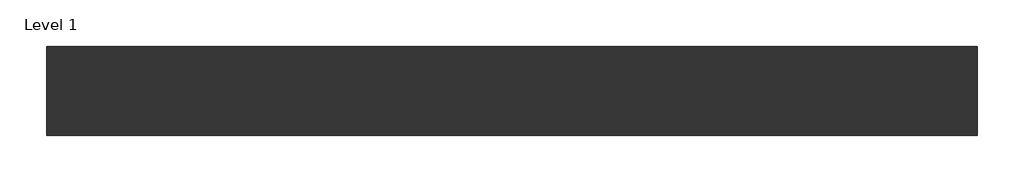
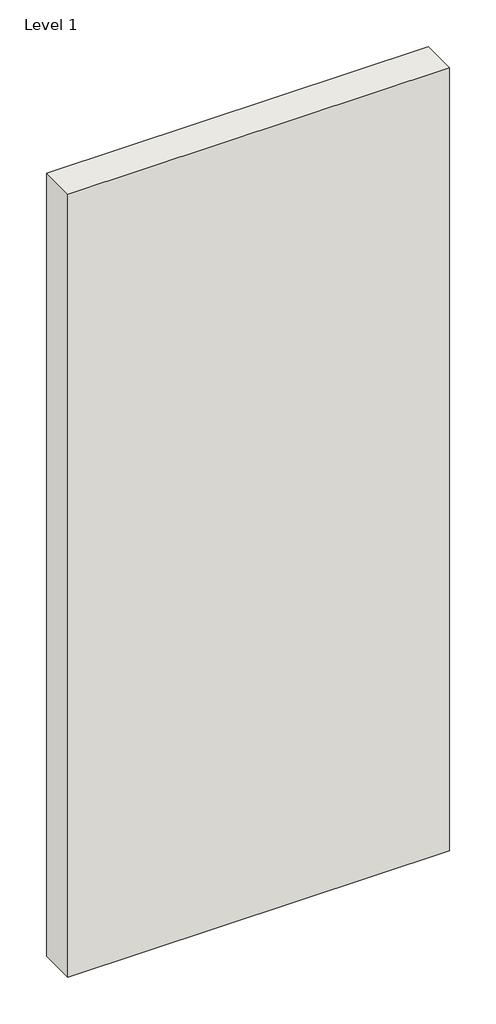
# One storey: 1 wall.
"""IFC4 building model written with IfcOpenShell, lengths in millimetres."""

import ifcopenshell
import ifcopenshell.guid

model = None  # the IFC model being written
_history = None  # IfcOwnerHistory: only IFC2X3 demands one
_inside = {}  # id of a spatial element -> (the spatial element, [elements in it])
_under = {}  # id of a project, library or spatial element -> (it, [spatial elements below it])
_declared = {}  # id of a project -> (the project, [libraries it declares])
_typed = {}  # id of a type object -> (the type object, [elements of that type])
_made_of = {}  # id of a material, layer set ... -> (it, [elements and type objects made of it])


def new_model(schema):
    """Start an empty IFC model of exactly this schema.

    Asked for "IFC4X3", IfcOpenShell would pick the latest addendum, in which some entities
    have other attributes; the version numbers below select the first issue.
    IFC2X3 requires an IfcOwnerHistory on every rooted entity: one is made here for all.
    """
    global model, _history
    if schema == "IFC4X3":
        model = ifcopenshell.file(schema_version=(4, 3, 0, 0))
    else:
        model = ifcopenshell.file(schema=schema)
    _inside.clear()
    _under.clear()
    _declared.clear()
    _typed.clear()
    _made_of.clear()
    _history = None
    if model.schema == "IFC2X3":
        org = make("IfcOrganization", Name="unknown")
        user = make(
            "IfcPersonAndOrganization",
            ThePerson=make("IfcPerson", FamilyName="unknown"),
            TheOrganization=org,
        )
        app = make(
            "IfcApplication",
            ApplicationDeveloper=org,
            Version="unknown",
            ApplicationFullName="unknown",
            ApplicationIdentifier="unknown",
        )
        _history = make(
            "IfcOwnerHistory",
            OwningUser=user,
            OwningApplication=app,
            ChangeAction="ADDED",
            CreationDate=0,
        )
    return model


def make(cls, **values):
    """One entity of the class cls with the attributes given. An attribute that is None is left unset."""
    return model.create_entity(
        cls, **{name: value for name, value in values.items() if value is not None}
    )


def rooted(cls, **values):
    """An entity with a GlobalId (a new one), such as an element, a storey or a relation."""
    return make(cls, GlobalId=ifcopenshell.guid.new(), OwnerHistory=_history, **values)


def si_unit(unit_type, name, prefix=None):
    """IfcSIUnit, for example si_unit("LENGTHUNIT", "METRE", prefix="MILLI")."""
    return make("IfcSIUnit", UnitType=unit_type, Prefix=prefix, Name=name)


def assignment(units):
    """IfcUnitAssignment: the units of a project."""
    return None if units is None else make("IfcUnitAssignment", Units=units)


def point(xyz):
    """IfcCartesianPoint."""
    return None if xyz is None else make("IfcCartesianPoint", Coordinates=xyz)


def direction(xyz):
    """IfcDirection."""
    return None if xyz is None else make("IfcDirection", DirectionRatios=xyz)


def frame(location, z_axis=None, x_axis=None):
    """IfcAxis2Placement3D, a coordinate frame: its origin and axes. An axis left out is left unset."""
    return make(
        "IfcAxis2Placement3D",
        Location=point(location),
        Axis=direction(z_axis),
        RefDirection=direction(x_axis),
    )


def origin():
    """The frame at (0, 0, 0) with its axes left unset."""
    return frame((0.0, 0.0, 0.0))


def origin_with_axes():
    """The frame at (0, 0, 0) with the z axis (0, 0, 1) and the x axis (1, 0, 0) written out."""
    return frame((0.0, 0.0, 0.0), z_axis=(0.0, 0.0, 1.0), x_axis=(1.0, 0.0, 0.0))


def place(relative_to, where):
    """IfcLocalPlacement: puts the frame where relative to a parent placement (None: the world)."""
    return make(
        "IfcLocalPlacement", PlacementRelTo=relative_to, RelativePlacement=where
    )


def context(
    kind, dimensions, precision=None, world=None, true_north=None, identifier=None
):
    """IfcGeometricRepresentationContext, for example the 3D "Model" context."""
    return make(
        "IfcGeometricRepresentationContext",
        ContextIdentifier=identifier,
        ContextType=kind,
        CoordinateSpaceDimension=dimensions,
        Precision=precision,
        WorldCoordinateSystem=world,
        TrueNorth=true_north,
    )


def project(units=None, contexts=None):
    """IfcProject with its units and contexts."""
    return rooted(
        "IfcProject",
        Name="project",
        RepresentationContexts=contexts,
        UnitsInContext=assignment(units),
    )


def spatial(cls, under=None, at=None, **own):
    """A site, building, storey or space (cls), placed at a placement, below another one or the project."""
    s = rooted(cls, ObjectPlacement=at, **own)
    if under is not None:
        _under.setdefault(under.id(), (under, []))[1].append(s)
    return s


def polyline(points):
    """IfcPolyline through the points."""
    return make("IfcPolyline", Points=[point(p) for p in points])


def outline(outer, holes=None, kind="AREA"):
    """IfcArbitraryClosedProfileDef: a profile drawn as a closed curve; with holes, ...WithVoids."""
    if holes is None:
        return make("IfcArbitraryClosedProfileDef", ProfileType=kind, OuterCurve=outer)
    return make(
        "IfcArbitraryProfileDefWithVoids",
        ProfileType=kind,
        OuterCurve=outer,
        InnerCurves=holes,
    )


def extrude(swept, where, along, depth):
    """IfcExtrudedAreaSolid: the profile swept, set in the frame where, extruded along a direction by depth."""
    return make(
        "IfcExtrudedAreaSolid",
        SweptArea=swept,
        Position=where,
        ExtrudedDirection=direction(along),
        Depth=depth,
    )


def shape(context_of_items, identifier, shape_type, items):
    """IfcShapeRepresentation: the items that make up one representation, for example the "Body"."""
    return make(
        "IfcShapeRepresentation",
        ContextOfItems=context_of_items,
        RepresentationIdentifier=identifier,
        RepresentationType=shape_type,
        Items=items,
    )


def made_of(thing, what):
    """Note that an element or type object is made of a material, layer set ...; save() writes the relation."""
    if what is not None:
        _made_of.setdefault(what.id(), (what, []))[1].append(thing)
    return thing


def element(
    cls,
    number,
    at=None,
    inside=None,
    cuts=None,
    type_object=None,
    material=None,
    context=None,
    identifier="Body",
    shape_type=None,
    held_by="IfcProductDefinitionShape",
    body=None,
    shapes=None,
    **own,
):
    """One element of the class cls, such as IfcWall. Its Tag is "e" and its number.

    at: its placement. inside: the storey or other place that contains it. cuts: it is an
    opening in that element (IfcRelVoidsElement). A single representation is given by context,
    identifier, shape_type and body (its items); several are given by shapes. held_by: the class
    of the entity that holds the representations. save() writes the other relations.
    """
    e = rooted(cls, Tag="e%d" % number, ObjectPlacement=at, **own)
    if body is not None:
        shapes = [shape(context, identifier, shape_type, body)]
    if shapes is not None:
        e.Representation = make(held_by, Representations=shapes)
    if inside is not None:
        _inside.setdefault(inside.id(), (inside, []))[1].append(e)
    if cuts is not None:
        rooted(
            "IfcRelVoidsElement", RelatingBuildingElement=cuts, RelatedOpeningElement=e
        )
    if type_object is not None:
        _typed.setdefault(type_object.id(), (type_object, []))[1].append(e)
    return made_of(e, material)


def aggregate(whole, parts):
    """IfcRelAggregates: a whole, such as a stair, and the parts it consists of."""
    return rooted("IfcRelAggregates", RelatingObject=whole, RelatedObjects=parts)


def save(model, path):
    """Write the relations noted so far, then the file.

    IfcRelAggregates (storeys below a building ...), IfcRelContainedInSpatialStructure (elements
    in a storey), IfcRelDefinesByType, IfcRelAssociatesMaterial and IfcRelDeclares: one each for
    every whole, place, type object, material and project.
    """
    for whole, parts in _under.values():
        aggregate(whole, parts)
    for where, things in _inside.values():
        rooted(
            "IfcRelContainedInSpatialStructure",
            RelatedElements=things,
            RelatingStructure=where,
        )
    for kind, things in _typed.values():
        rooted("IfcRelDefinesByType", RelatedObjects=things, RelatingType=kind)
    for what, things in _made_of.values():
        rooted("IfcRelAssociatesMaterial", RelatedObjects=things, RelatingMaterial=what)
    for by, libraries in _declared.values():
        rooted("IfcRelDeclares", RelatingContext=by, RelatedDefinitions=libraries)
    model.write(path)


model = new_model("IFC4")

# Units and contexts
model_context = context("Model", 3, world=origin())
ifc_project = project(units=[si_unit("LENGTHUNIT", "METRE", prefix="MILLI")], contexts=[model_context])

# Site, building, storey
site = spatial("IfcSite", under=ifc_project)
building = spatial("IfcBuilding", under=site)
storey = spatial("IfcBuildingStorey", under=building, Name="Level 1", Elevation=0.0)

# Wall
placement = place(None, origin())
element("IfcWall", 1, ObjectType="Trasdosado Placo® 95(70) 2xBA13 + 70LM c/400", at=placement, inside=storey, context=model_context, shape_type="SweptSolid", body=[
    extrude(outline(polyline([(-27296.4711674, -83779.3970389), (-28496.4711674, -83779.3970389), (-28496.4711674, -83664.3970389), (-27296.4711674, -83664.3970389), (-27296.4711674, -83779.3970389)])), origin_with_axes(), (0.0, 0.0, 1.0), 2600.0),
])

save(model, "model.ifc")
